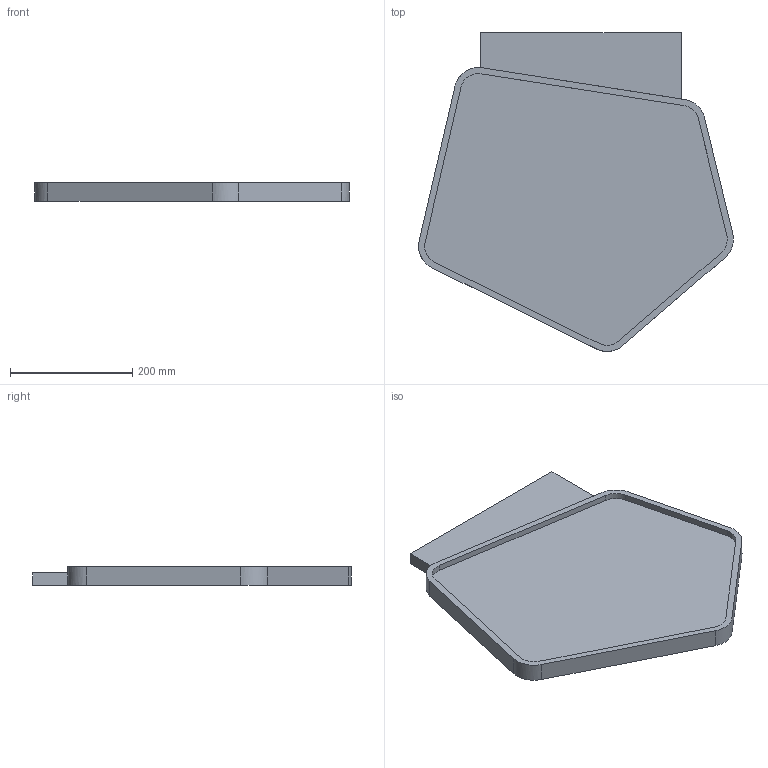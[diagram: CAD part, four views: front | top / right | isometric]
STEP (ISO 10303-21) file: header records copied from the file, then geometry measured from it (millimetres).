
FILE_DESCRIPTION(/* description */ (''),/* implementation_level */ '2;1');
FILE_NAME(/* name */ 'KAML',/* time_stamp */ '2024-10-07T11:14:43+02:00',/* author */ (''),/* organization */ (''),/* preprocessor_version */ 'ST-DEVELOPER v16.5',/* originating_system */ 'Rhino 7.27',/* authorisation */ '');
FILE_SCHEMA (('CONFIG_CONTROL_DESIGN'));
Length unit declared in the file: centimetre
Products named in the file (1): Document
Bounding box: 514.66 x 521.37 x 30 mm (x, y, z)
Volume: 4133419.9 mm3; surface area: 462994.2 mm2
Topology: 1 solids, 1 shells, 27 faces, 72 edges, 48 vertices
Faces by surface type: plane 17, cylinder 10
Entity records: 797 total; most frequent: CARTESIAN_POINT 255, ORIENTED_EDGE 144, EDGE_CURVE 72, VERTEX_POINT 48, DIRECTION 31, AXIS2_PLACEMENT_3D 29, EDGE_LOOP 28, ADVANCED_FACE 27
